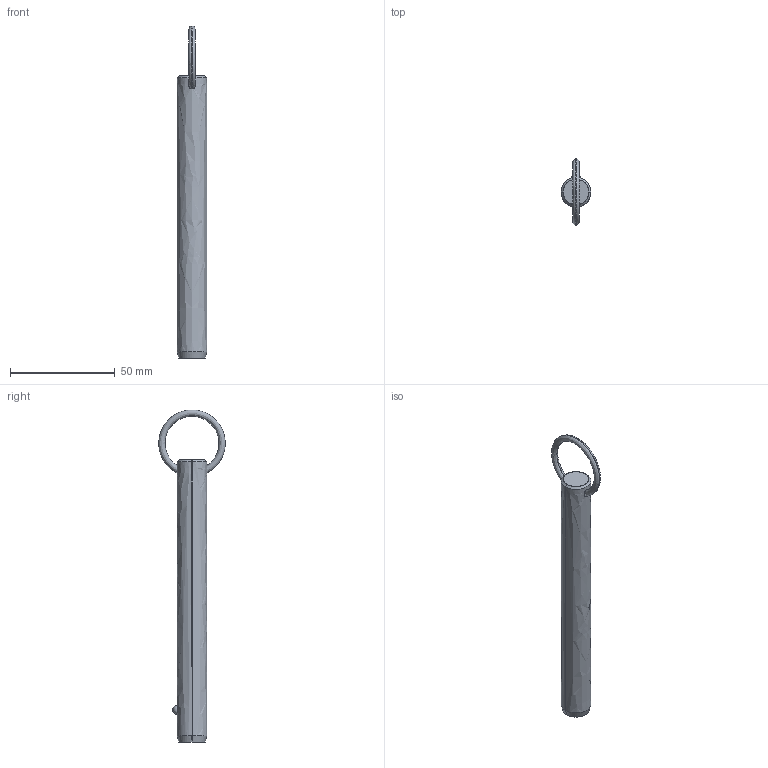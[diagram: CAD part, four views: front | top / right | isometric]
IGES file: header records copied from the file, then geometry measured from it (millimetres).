
Start section: SolidWorks IGES file using analytic representation for surfaces
Global section: file name: C:\Users\liam_\OneDrive\Documents\WORK\Work for WixRoyd\Job Files\J-00019 - Matt Davis CAD Checking\04. CAD Drawings\automotion20190605\P1250.2_v2\P1250.2_v2_20190729_IGES\P1250.056-430.igs; native system: SolidWorks 2017; preprocessor: SolidWorks 2017; author: liam_; date: 190729.232252; units: millimetre
Bounding box: 14.2 x 31.7 x 158.29 mm (x, y, z)
Surface area: 6966 mm2 (no closed solid volume)
Topology: 0 solids, 0 shells, 12 faces, 285 edges, 283 vertices
Faces by surface type: revolution 8, bspline 4
